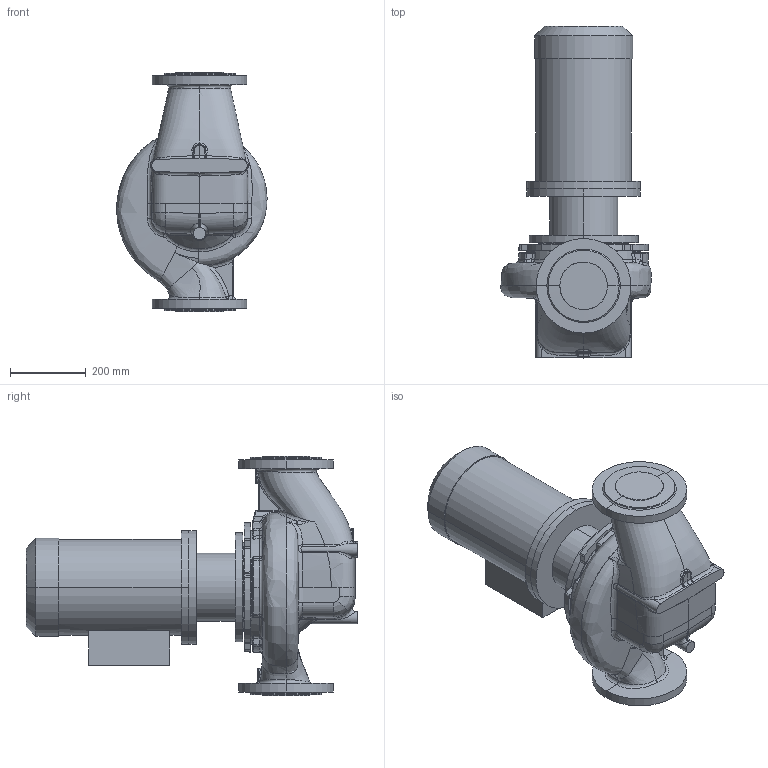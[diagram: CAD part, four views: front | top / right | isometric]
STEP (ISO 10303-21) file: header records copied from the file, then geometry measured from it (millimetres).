
FILE_DESCRIPTION (( 'STEP AP214' ), '1' );
FILE_NAME ('KRL 125-250-4-7,5.STEP', '2026-04-02T13:56:41', ( '' ), ( '' ), 'SwSTEP 2.0', 'SolidWorks 2016', '' );
FILE_SCHEMA (( 'AUTOMOTIVE_DESIGN' ));
Length unit declared in the file: millimetre
Products named in the file (1): KRL 125-250-4-7,5
Bounding box: 396.75 x 876.8 x 634 mm (x, y, z)
Volume: 62086700.8 mm3; surface area: 1894199.1 mm2
Topology: 4 solids, 4 shells, 545 faces, 1349 edges, 821 vertices
Faces by surface type: bspline 248, cylinder 114, plane 105, cone 46, torus 18, sphere 14
Entity records: 58067 total; most frequent: CARTESIAN_POINT 41356, ORIENTED_EDGE 2668, DIRECTION 1629, EDGE_CURVE 1334, VERTEX_POINT 820, AXIS2_PLACEMENT_3D 690, B_SPLINE_CURVE_WITH_KNOTS 626, EDGE_LOOP 566
